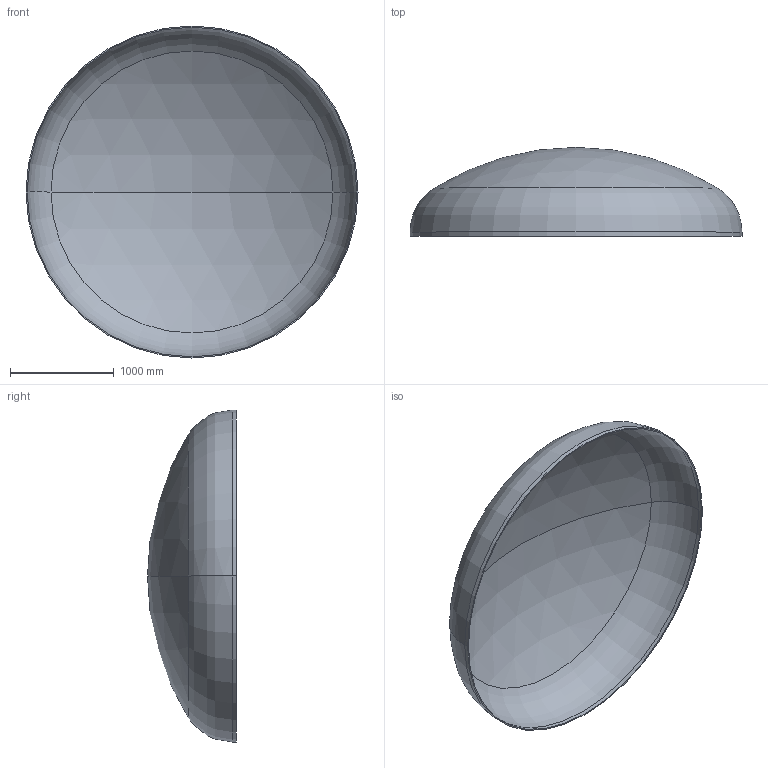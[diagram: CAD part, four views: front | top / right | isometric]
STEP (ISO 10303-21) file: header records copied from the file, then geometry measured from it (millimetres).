
FILE_DESCRIPTION (( 'STEP AP203' ), '1' );
FILE_NAME ('DIN 28013 Korbbogenform_-_Boden DIN 28013 - 3200 x 40 - I - s=11.step', '2016-07-01T18:18:32', ( '' ), ( '' ), 'SwSTEP 2.0', 'SolidWorks 2013', '' );
FILE_SCHEMA (( 'CONFIG_CONTROL_DESIGN' ));
Length unit declared in the file: millimetre
Products named in the file (1): DIN 28013 Korbbogenform_-_Boden DIN 28013 - 3200 x 40 - I - s=11
Bounding box: 3200 x 856.83 x 3200 mm (x, y, z)
Volume: 126251251.8 mm3; surface area: 23065221.1 mm2
Topology: 1 solids, 1 shells, 13 faces, 24 edges, 14 vertices
Faces by surface type: torus 4, cylinder 4, sphere 4, plane 1
Entity records: 407 total; most frequent: DIRECTION 72, CARTESIAN_POINT 52, ORIENTED_EDGE 48, AXIS2_PLACEMENT_3D 34, EDGE_CURVE 24, CIRCLE 20, VERTEX_POINT 14, EDGE_LOOP 14
